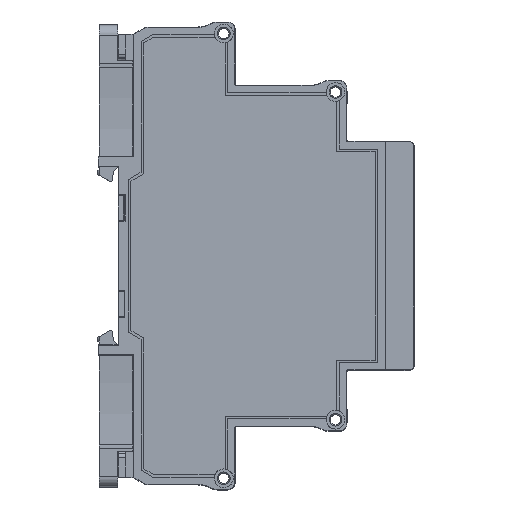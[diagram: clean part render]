
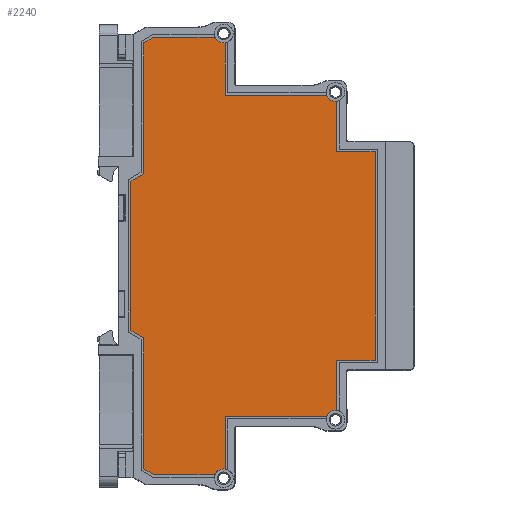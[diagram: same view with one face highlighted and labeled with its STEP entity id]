
A CAD part, top view. The second image highlights one B-rep face of the part: STEP entity #2240.
In plain terms, the highlighted planar face has unit normal (0, 0, 1) as drawn and (1, 0, 0) by its records, which use the part's own axes.
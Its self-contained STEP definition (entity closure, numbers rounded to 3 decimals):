
#2240=ADVANCED_FACE('',(#41282),#41284,.T.);
#41282=FACE_BOUND('',#41283,.T.);
#41283=EDGE_LOOP('',(#71094,#71095,#71096,#71097,#71098,#71099,#71100,#71101,#71102,
#71103,#71104,#71105,#71106,#71107,#71108,#71109,#71110,#71111,#71112,#71113,#71114,
#71115));
#41284=PLANE('',#41285);
#41285=AXIS2_PLACEMENT_3D('',#41286,#41287,#41288);
#41286=CARTESIAN_POINT('',(17.5,0.,0.));
#41287=DIRECTION('',(1.,0.,0.));
#41288=DIRECTION('',(0.,0.,-1.));
#71094=ORIENTED_EDGE('',*,*,#100174,.F.);
#71095=ORIENTED_EDGE('',*,*,#100175,.T.);
#71096=ORIENTED_EDGE('',*,*,#99562,.F.);
#71097=ORIENTED_EDGE('',*,*,#100176,.T.);
#71098=ORIENTED_EDGE('',*,*,#100177,.T.);
#71099=ORIENTED_EDGE('',*,*,#100178,.T.);
#71100=ORIENTED_EDGE('',*,*,#100179,.T.);
#71101=ORIENTED_EDGE('',*,*,#100180,.T.);
#71102=ORIENTED_EDGE('',*,*,#99546,.F.);
#71103=ORIENTED_EDGE('',*,*,#100181,.F.);
#71104=ORIENTED_EDGE('',*,*,#100182,.T.);
#71105=ORIENTED_EDGE('',*,*,#99556,.F.);
#71106=ORIENTED_EDGE('',*,*,#100183,.T.);
#71107=ORIENTED_EDGE('',*,*,#100184,.F.);
#71108=ORIENTED_EDGE('',*,*,#100185,.T.);
#71109=ORIENTED_EDGE('',*,*,#100186,.T.);
#71110=ORIENTED_EDGE('',*,*,#100187,.T.);
#71111=ORIENTED_EDGE('',*,*,#100188,.T.);
#71112=ORIENTED_EDGE('',*,*,#100189,.T.);
#71113=ORIENTED_EDGE('',*,*,#100190,.F.);
#71114=ORIENTED_EDGE('',*,*,#100191,.T.);
#71115=ORIENTED_EDGE('',*,*,#99572,.F.);
#99546=EDGE_CURVE('',#111830,#111815,#111832,.T.);
#99556=EDGE_CURVE('',#111850,#111835,#111852,.T.);
#99562=EDGE_CURVE('',#111862,#111864,#111865,.T.);
#99572=EDGE_CURVE('',#111882,#111884,#111885,.T.);
#100174=EDGE_CURVE('',#112982,#111882,#112983,.T.);
#100175=EDGE_CURVE('',#112982,#111864,#112984,.T.);
#100176=EDGE_CURVE('',#111862,#112985,#112986,.T.);
#100177=EDGE_CURVE('',#112985,#112987,#112988,.T.);
#100178=EDGE_CURVE('',#112987,#112989,#112990,.T.);
#100179=EDGE_CURVE('',#112989,#112991,#112992,.T.);
#100180=EDGE_CURVE('',#112991,#111815,#112993,.T.);
#100181=EDGE_CURVE('',#112994,#111830,#112995,.T.);
#100182=EDGE_CURVE('',#112994,#111835,#112996,.T.);
#100183=EDGE_CURVE('',#111850,#112997,#112998,.T.);
#100184=EDGE_CURVE('',#112999,#112997,#113000,.T.);
#100185=EDGE_CURVE('',#112999,#113001,#113002,.T.);
#100186=EDGE_CURVE('',#113001,#113003,#113004,.T.);
#100187=EDGE_CURVE('',#113003,#113005,#113006,.T.);
#100188=EDGE_CURVE('',#113005,#113007,#113008,.T.);
#100189=EDGE_CURVE('',#113007,#113009,#113010,.T.);
#100190=EDGE_CURVE('',#113011,#113009,#113012,.T.);
#100191=EDGE_CURVE('',#113011,#111884,#113013,.T.);
#111815=VERTEX_POINT('',#132848);
#111830=VERTEX_POINT('',#132881);
#111832=CIRCLE('',#132885,1.85);
#111835=VERTEX_POINT('',#132894);
#111850=VERTEX_POINT('',#132927);
#111852=CIRCLE('',#132931,1.85);
#111862=VERTEX_POINT('',#132955);
#111864=VERTEX_POINT('',#132959);
#111865=CIRCLE('',#132960,1.85);
#111882=VERTEX_POINT('',#133001);
#111884=VERTEX_POINT('',#133005);
#111885=CIRCLE('',#133006,1.85);
#112982=VERTEX_POINT('',#135333);
#112983=LINE('',#135334,#135335);
#112984=LINE('',#135337,#135338);
#112985=VERTEX_POINT('',#135340);
#112986=LINE('',#135341,#135342);
#112987=VERTEX_POINT('',#135344);
#112988=LINE('',#135345,#135346);
#112989=VERTEX_POINT('',#135348);
#112990=LINE('',#135349,#135350);
#112991=VERTEX_POINT('',#135352);
#112992=LINE('',#135353,#135354);
#112993=LINE('',#135356,#135357);
#112994=VERTEX_POINT('',#135359);
#112995=LINE('',#135360,#135361);
#112996=LINE('',#135363,#135364);
#112997=VERTEX_POINT('',#135366);
#112998=LINE('',#135367,#135368);
#112999=VERTEX_POINT('',#135370);
#113000=LINE('',#135371,#135372);
#113001=VERTEX_POINT('',#135374);
#113002=LINE('',#135375,#135376);
#113003=VERTEX_POINT('',#135378);
#113004=LINE('',#135379,#135380);
#113005=VERTEX_POINT('',#135382);
#113006=LINE('',#135383,#135384);
#113007=VERTEX_POINT('',#135386);
#113008=LINE('',#135387,#135388);
#113009=VERTEX_POINT('',#135390);
#113010=LINE('',#135391,#135392);
#113011=VERTEX_POINT('',#135394);
#113012=LINE('',#135395,#135396);
#113013=LINE('',#135398,#135399);
#132848=CARTESIAN_POINT('',(17.5,-30.541,38.985));
#132881=CARTESIAN_POINT('',(17.5,-31.7,37.015));
#132885=AXIS2_PLACEMENT_3D('',#132886,#132887,#132888);
#132886=CARTESIAN_POINT('',(17.5,-32.375,38.738));
#132887=DIRECTION('',(1.,0.,0.));
#132888=DIRECTION('',(0.,0.365,-0.931));
#132894=CARTESIAN_POINT('',(17.5,-42.103,16.897));
#132927=CARTESIAN_POINT('',(17.5,-43.2,14.953));
#132931=AXIS2_PLACEMENT_3D('',#132932,#132933,#132934);
#132932=CARTESIAN_POINT('',(17.5,-43.937,16.65));
#132933=DIRECTION('',(1.,0.,0.));
#132934=DIRECTION('',(0.,0.398,-0.917));
#132955=CARTESIAN_POINT('',(17.5,30.541,38.985));
#132959=CARTESIAN_POINT('',(17.5,31.7,37.015));
#132960=AXIS2_PLACEMENT_3D('',#132961,#132962,#132963);
#132961=CARTESIAN_POINT('',(17.5,32.375,38.738));
#132962=DIRECTION('',(1.,0.,0.));
#132963=DIRECTION('',(0.,-0.991,0.134));
#133001=CARTESIAN_POINT('',(17.5,42.103,16.897));
#133005=CARTESIAN_POINT('',(17.5,43.2,14.953));
#133006=AXIS2_PLACEMENT_3D('',#133007,#133008,#133009);
#133007=CARTESIAN_POINT('',(17.5,43.937,16.65));
#133008=DIRECTION('',(1.,0.,0.));
#133009=DIRECTION('',(0.,-0.991,0.134));
#135333=CARTESIAN_POINT('',(17.5,31.7,16.897));
#135334=CARTESIAN_POINT('',(17.5,31.7,16.897));
#135335=VECTOR('',#135336,1.);
#135336=DIRECTION('',(0.,1.,0.));
#135337=CARTESIAN_POINT('',(17.5,31.7,16.897));
#135338=VECTOR('',#135339,1.);
#135339=DIRECTION('',(0.,0.,1.));
#135340=CARTESIAN_POINT('',(17.5,20.6,38.985));
#135341=CARTESIAN_POINT('',(17.5,30.541,38.985));
#135342=VECTOR('',#135343,1.);
#135343=DIRECTION('',(0.,-1.,0.));
#135344=CARTESIAN_POINT('',(17.5,20.6,46.53));
#135345=CARTESIAN_POINT('',(17.5,20.6,38.985));
#135346=VECTOR('',#135347,1.);
#135347=DIRECTION('',(0.,0.,1.));
#135348=CARTESIAN_POINT('',(17.5,-20.6,46.53));
#135349=CARTESIAN_POINT('',(17.5,20.6,46.53));
#135350=VECTOR('',#135351,1.);
#135351=DIRECTION('',(0.,-1.,0.));
#135352=CARTESIAN_POINT('',(17.5,-20.6,38.985));
#135353=CARTESIAN_POINT('',(17.5,-20.6,46.53));
#135354=VECTOR('',#135355,1.);
#135355=DIRECTION('',(0.,0.,-1.));
#135356=CARTESIAN_POINT('',(17.5,-20.6,38.985));
#135357=VECTOR('',#135358,1.);
#135358=DIRECTION('',(0.,-1.,0.));
#135359=CARTESIAN_POINT('',(17.5,-31.7,16.897));
#135360=CARTESIAN_POINT('',(17.5,-31.7,16.897));
#135361=VECTOR('',#135362,1.);
#135362=DIRECTION('',(0.,0.,1.));
#135363=CARTESIAN_POINT('',(17.5,-31.7,16.897));
#135364=VECTOR('',#135365,1.);
#135365=DIRECTION('',(0.,-1.,0.));
#135366=CARTESIAN_POINT('',(17.5,-43.2,2.761));
#135367=CARTESIAN_POINT('',(17.5,-43.2,14.953));
#135368=VECTOR('',#135369,1.);
#135369=DIRECTION('',(0.,0.,-1.));
#135370=CARTESIAN_POINT('',(17.5,-42.068,0.8));
#135371=CARTESIAN_POINT('',(17.5,-42.068,0.8));
#135372=VECTOR('',#135373,1.);
#135373=DIRECTION('',(0.,-0.5,0.866));
#135374=CARTESIAN_POINT('',(17.5,-16.211,0.8));
#135375=CARTESIAN_POINT('',(17.5,-42.068,0.8));
#135376=VECTOR('',#135377,1.);
#135377=DIRECTION('',(0.,1.,0.));
#135378=CARTESIAN_POINT('',(17.5,-14.768,-1.7));
#135379=CARTESIAN_POINT('',(17.5,-16.211,0.8));
#135380=VECTOR('',#135381,1.);
#135381=DIRECTION('',(0.,0.5,-0.866));
#135382=CARTESIAN_POINT('',(17.5,14.768,-1.7));
#135383=CARTESIAN_POINT('',(17.5,-14.768,-1.7));
#135384=VECTOR('',#135385,1.);
#135385=DIRECTION('',(0.,1.,0.));
#135386=CARTESIAN_POINT('',(17.5,16.211,0.8));
#135387=CARTESIAN_POINT('',(17.5,14.768,-1.7));
#135388=VECTOR('',#135389,1.);
#135389=DIRECTION('',(0.,0.5,0.866));
#135390=CARTESIAN_POINT('',(17.5,42.068,0.8));
#135391=CARTESIAN_POINT('',(17.5,16.211,0.8));
#135392=VECTOR('',#135393,1.);
#135393=DIRECTION('',(0.,1.,0.));
#135394=CARTESIAN_POINT('',(17.5,43.2,2.761));
#135395=CARTESIAN_POINT('',(17.5,43.2,2.761));
#135396=VECTOR('',#135397,1.);
#135397=DIRECTION('',(0.,-0.5,-0.866));
#135398=CARTESIAN_POINT('',(17.5,43.2,2.761));
#135399=VECTOR('',#135400,1.);
#135400=DIRECTION('',(0.,0.,1.));
